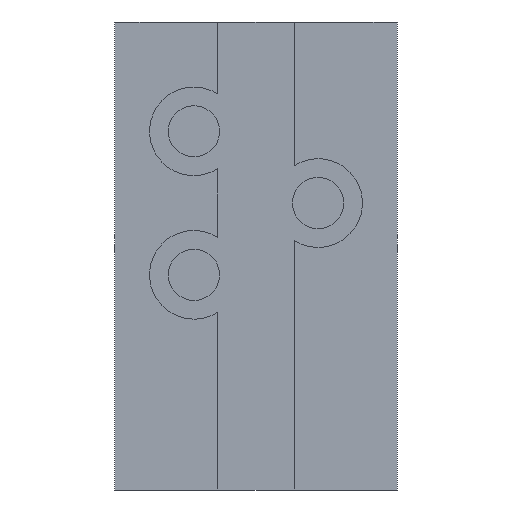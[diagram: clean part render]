
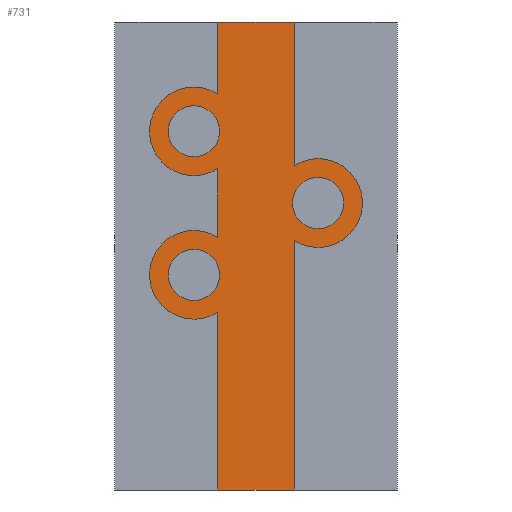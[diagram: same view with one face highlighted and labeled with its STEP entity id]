
A CAD part, front view. The second image highlights one B-rep face of the part: STEP entity #731.
In plain terms, the highlighted planar face has unit normal (0, -1, 0).
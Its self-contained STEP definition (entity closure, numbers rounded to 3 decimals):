
#33=PLANE('',#802);
#73=FACE_OUTER_BOUND('',#121,.T.);
#121=EDGE_LOOP('',(#535,#536,#537,#538,#539,#540,#541,#542,#543,#544));
#166=CIRCLE('',#795,0.55);
#169=CIRCLE('',#801,0.55);
#170=CIRCLE('',#803,0.55);
#186=LINE('',#1099,#271);
#189=LINE('',#1107,#274);
#190=LINE('',#1109,#275);
#191=LINE('',#1111,#276);
#192=LINE('',#1115,#277);
#193=LINE('',#1117,#278);
#194=LINE('',#1118,#279);
#271=VECTOR('',#880,10.);
#274=VECTOR('',#889,10.);
#275=VECTOR('',#890,10.);
#276=VECTOR('',#891,10.);
#277=VECTOR('',#894,10.);
#278=VECTOR('',#895,10.);
#279=VECTOR('',#896,10.);
#348=VERTEX_POINT('',#1075);
#350=VERTEX_POINT('',#1078);
#358=VERTEX_POINT('',#1098);
#359=VERTEX_POINT('',#1102);
#360=VERTEX_POINT('',#1106);
#361=VERTEX_POINT('',#1108);
#362=VERTEX_POINT('',#1110);
#363=VERTEX_POINT('',#1112);
#364=VERTEX_POINT('',#1114);
#365=VERTEX_POINT('',#1116);
#415=EDGE_CURVE('',#348,#350,#166,.T.);
#425=EDGE_CURVE('',#350,#358,#186,.T.);
#428=EDGE_CURVE('',#358,#359,#169,.T.);
#429=EDGE_CURVE('',#360,#348,#189,.T.);
#430=EDGE_CURVE('',#360,#361,#190,.T.);
#431=EDGE_CURVE('',#362,#361,#191,.T.);
#432=EDGE_CURVE('',#363,#362,#170,.T.);
#433=EDGE_CURVE('',#364,#363,#192,.T.);
#434=EDGE_CURVE('',#364,#365,#193,.T.);
#435=EDGE_CURVE('',#359,#365,#194,.T.);
#535=ORIENTED_EDGE('',*,*,#429,.F.);
#536=ORIENTED_EDGE('',*,*,#430,.T.);
#537=ORIENTED_EDGE('',*,*,#431,.F.);
#538=ORIENTED_EDGE('',*,*,#432,.F.);
#539=ORIENTED_EDGE('',*,*,#433,.F.);
#540=ORIENTED_EDGE('',*,*,#434,.T.);
#541=ORIENTED_EDGE('',*,*,#435,.F.);
#542=ORIENTED_EDGE('',*,*,#428,.F.);
#543=ORIENTED_EDGE('',*,*,#425,.F.);
#544=ORIENTED_EDGE('',*,*,#415,.F.);
#731=ADVANCED_FACE('',(#73),#33,.T.);
#795=AXIS2_PLACEMENT_3D('',#1079,#863,#864);
#801=AXIS2_PLACEMENT_3D('',#1104,#885,#886);
#802=AXIS2_PLACEMENT_3D('',#1105,#887,#888);
#803=AXIS2_PLACEMENT_3D('',#1113,#892,#893);
#863=DIRECTION('center_axis',(0.,1.,0.));
#864=DIRECTION('ref_axis',(1.,0.,0.));
#880=DIRECTION('',(0.,0.,1.));
#885=DIRECTION('center_axis',(0.,1.,0.));
#886=DIRECTION('ref_axis',(1.,0.,0.));
#887=DIRECTION('center_axis',(0.,-1.,0.));
#888=DIRECTION('ref_axis',(0.,0.,-1.));
#889=DIRECTION('',(0.,0.,1.));
#890=DIRECTION('',(1.,0.,0.));
#891=DIRECTION('',(0.,0.,-1.));
#892=DIRECTION('center_axis',(0.,1.,0.));
#893=DIRECTION('ref_axis',(1.,0.,0.));
#894=DIRECTION('',(0.,0.,-1.));
#895=DIRECTION('',(-1.,0.,0.));
#896=DIRECTION('',(0.,0.,1.));
#1075=CARTESIAN_POINT('',(1.275,-2.5,2.203));
#1078=CARTESIAN_POINT('',(1.275,-2.5,3.131));
#1079=CARTESIAN_POINT('Origin',(0.98,-2.5,2.667));
#1098=CARTESIAN_POINT('',(1.275,-2.5,3.981));
#1099=CARTESIAN_POINT('',(1.275,-2.5,0.));
#1102=CARTESIAN_POINT('',(1.275,-2.5,4.909));
#1104=CARTESIAN_POINT('Origin',(0.98,-2.5,4.445));
#1105=CARTESIAN_POINT('Origin',(1.75,-2.5,5.8));
#1106=CARTESIAN_POINT('',(1.275,-2.5,0.));
#1107=CARTESIAN_POINT('',(1.275,-2.5,0.));
#1108=CARTESIAN_POINT('',(2.225,-2.5,0.));
#1109=CARTESIAN_POINT('',(1.75,-2.5,0.));
#1110=CARTESIAN_POINT('',(2.225,-2.5,3.092));
#1111=CARTESIAN_POINT('',(2.225,-2.5,0.));
#1112=CARTESIAN_POINT('',(2.225,-2.5,4.02));
#1113=CARTESIAN_POINT('Origin',(2.52,-2.5,3.556));
#1114=CARTESIAN_POINT('',(2.225,-2.5,5.8));
#1115=CARTESIAN_POINT('',(2.225,-2.5,0.));
#1116=CARTESIAN_POINT('',(1.275,-2.5,5.8));
#1117=CARTESIAN_POINT('',(1.75,-2.5,5.8));
#1118=CARTESIAN_POINT('',(1.275,-2.5,0.));
